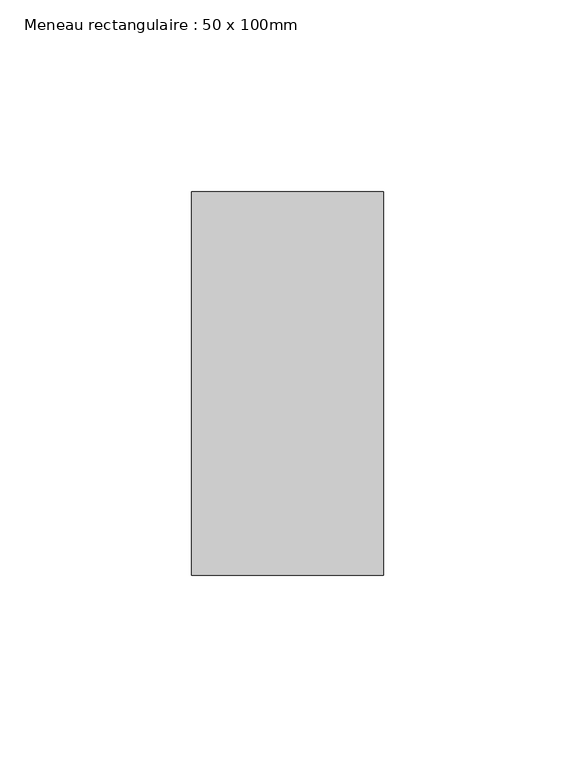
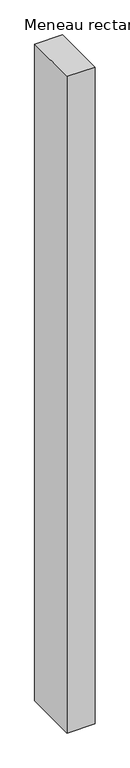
"""IFC4 building model written with IfcOpenShell, lengths in millimetres: member geometry, Meneau rectangulaire : 50 x 100mm."""

import ifcopenshell
import ifcopenshell.guid

model = None  # the IFC model being written
_history = None  # IfcOwnerHistory: only IFC2X3 demands one
_inside = {}  # id of a spatial element -> (the spatial element, [elements in it])
_under = {}  # id of a project, library or spatial element -> (it, [spatial elements below it])
_declared = {}  # id of a project -> (the project, [libraries it declares])
_typed = {}  # id of a type object -> (the type object, [elements of that type])
_made_of = {}  # id of a material, layer set ... -> (it, [elements and type objects made of it])


def new_model(schema):
    """Start an empty IFC model of exactly this schema.

    Asked for "IFC4X3", IfcOpenShell would pick the latest addendum, in which some entities
    have other attributes; the version numbers below select the first issue.
    IFC2X3 requires an IfcOwnerHistory on every rooted entity: one is made here for all.
    """
    global model, _history
    if schema == "IFC4X3":
        model = ifcopenshell.file(schema_version=(4, 3, 0, 0))
    else:
        model = ifcopenshell.file(schema=schema)
    _inside.clear()
    _under.clear()
    _declared.clear()
    _typed.clear()
    _made_of.clear()
    _history = None
    if model.schema == "IFC2X3":
        org = make("IfcOrganization", Name="unknown")
        user = make(
            "IfcPersonAndOrganization",
            ThePerson=make("IfcPerson", FamilyName="unknown"),
            TheOrganization=org,
        )
        app = make(
            "IfcApplication",
            ApplicationDeveloper=org,
            Version="unknown",
            ApplicationFullName="unknown",
            ApplicationIdentifier="unknown",
        )
        _history = make(
            "IfcOwnerHistory",
            OwningUser=user,
            OwningApplication=app,
            ChangeAction="ADDED",
            CreationDate=0,
        )
    return model


def make(cls, **values):
    """One entity of the class cls with the attributes given. An attribute that is None is left unset."""
    return model.create_entity(
        cls, **{name: value for name, value in values.items() if value is not None}
    )


def rooted(cls, **values):
    """An entity with a GlobalId (a new one), such as an element, a storey or a relation."""
    return make(cls, GlobalId=ifcopenshell.guid.new(), OwnerHistory=_history, **values)


def si_unit(unit_type, name, prefix=None):
    """IfcSIUnit, for example si_unit("LENGTHUNIT", "METRE", prefix="MILLI")."""
    return make("IfcSIUnit", UnitType=unit_type, Prefix=prefix, Name=name)


def assignment(units):
    """IfcUnitAssignment: the units of a project."""
    return None if units is None else make("IfcUnitAssignment", Units=units)


def point(xyz):
    """IfcCartesianPoint."""
    return None if xyz is None else make("IfcCartesianPoint", Coordinates=xyz)


def direction(xyz):
    """IfcDirection."""
    return None if xyz is None else make("IfcDirection", DirectionRatios=xyz)


def frame(location, z_axis=None, x_axis=None):
    """IfcAxis2Placement3D, a coordinate frame: its origin and axes. An axis left out is left unset."""
    return make(
        "IfcAxis2Placement3D",
        Location=point(location),
        Axis=direction(z_axis),
        RefDirection=direction(x_axis),
    )


def origin():
    """The frame at (0, 0, 0) with its axes left unset."""
    return frame((0.0, 0.0, 0.0))


def place(relative_to, where):
    """IfcLocalPlacement: puts the frame where relative to a parent placement (None: the world)."""
    return make(
        "IfcLocalPlacement", PlacementRelTo=relative_to, RelativePlacement=where
    )


def context(
    kind, dimensions, precision=None, world=None, true_north=None, identifier=None
):
    """IfcGeometricRepresentationContext, for example the 3D "Model" context."""
    return make(
        "IfcGeometricRepresentationContext",
        ContextIdentifier=identifier,
        ContextType=kind,
        CoordinateSpaceDimension=dimensions,
        Precision=precision,
        WorldCoordinateSystem=world,
        TrueNorth=true_north,
    )


def project(units=None, contexts=None):
    """IfcProject with its units and contexts."""
    return rooted(
        "IfcProject",
        Name="project",
        RepresentationContexts=contexts,
        UnitsInContext=assignment(units),
    )


def spatial(cls, under=None, at=None, **own):
    """A site, building, storey or space (cls), placed at a placement, below another one or the project."""
    s = rooted(cls, ObjectPlacement=at, **own)
    if under is not None:
        _under.setdefault(under.id(), (under, []))[1].append(s)
    return s


def polyline(points):
    """IfcPolyline through the points."""
    return make("IfcPolyline", Points=[point(p) for p in points])


def outline(outer, holes=None, kind="AREA"):
    """IfcArbitraryClosedProfileDef: a profile drawn as a closed curve; with holes, ...WithVoids."""
    if holes is None:
        return make("IfcArbitraryClosedProfileDef", ProfileType=kind, OuterCurve=outer)
    return make(
        "IfcArbitraryProfileDefWithVoids",
        ProfileType=kind,
        OuterCurve=outer,
        InnerCurves=holes,
    )


def extrude(swept, where, along, depth):
    """IfcExtrudedAreaSolid: the profile swept, set in the frame where, extruded along a direction by depth."""
    return make(
        "IfcExtrudedAreaSolid",
        SweptArea=swept,
        Position=where,
        ExtrudedDirection=direction(along),
        Depth=depth,
    )


def shape(context_of_items, identifier, shape_type, items):
    """IfcShapeRepresentation: the items that make up one representation, for example the "Body"."""
    return make(
        "IfcShapeRepresentation",
        ContextOfItems=context_of_items,
        RepresentationIdentifier=identifier,
        RepresentationType=shape_type,
        Items=items,
    )


def source(mapping_origin, context_of_items, identifier, shape_type, items):
    """IfcRepresentationMap: a shape defined once, which mapped items show again and again."""
    return make(
        "IfcRepresentationMap",
        MappingOrigin=mapping_origin,
        MappedRepresentation=shape(context_of_items, identifier, shape_type, items),
    )


def transform(
    local_origin,
    x_axis=None,
    y_axis=None,
    z_axis=None,
    scale=None,
    scale2=None,
    scale3=None,
    uniform=True,
):
    """IfcCartesianTransformationOperator3D, or its non-uniform kind. x_axis, y_axis, z_axis: its Axis1, 2, 3."""
    if uniform:
        return make(
            "IfcCartesianTransformationOperator3D",
            Axis1=direction(x_axis),
            Axis2=direction(y_axis),
            LocalOrigin=point(local_origin),
            Scale=scale,
            Axis3=direction(z_axis),
        )
    return make(
        "IfcCartesianTransformationOperator3DnonUniform",
        Axis1=direction(x_axis),
        Axis2=direction(y_axis),
        LocalOrigin=point(local_origin),
        Scale=scale,
        Axis3=direction(z_axis),
        Scale2=scale2,
        Scale3=scale3,
    )


def mapped(mapping_source, mapping_target):
    """IfcMappedItem: shows the shape of a source again, moved by a transform."""
    return make(
        "IfcMappedItem", MappingSource=mapping_source, MappingTarget=mapping_target
    )


def made_of(thing, what):
    """Note that an element or type object is made of a material, layer set ...; save() writes the relation."""
    if what is not None:
        _made_of.setdefault(what.id(), (what, []))[1].append(thing)
    return thing


def element(
    cls,
    number,
    at=None,
    inside=None,
    cuts=None,
    type_object=None,
    material=None,
    context=None,
    identifier="Body",
    shape_type=None,
    held_by="IfcProductDefinitionShape",
    body=None,
    shapes=None,
    **own,
):
    """One element of the class cls, such as IfcWall. Its Tag is "e" and its number.

    at: its placement. inside: the storey or other place that contains it. cuts: it is an
    opening in that element (IfcRelVoidsElement). A single representation is given by context,
    identifier, shape_type and body (its items); several are given by shapes. held_by: the class
    of the entity that holds the representations. save() writes the other relations.
    """
    e = rooted(cls, Tag="e%d" % number, ObjectPlacement=at, **own)
    if body is not None:
        shapes = [shape(context, identifier, shape_type, body)]
    if shapes is not None:
        e.Representation = make(held_by, Representations=shapes)
    if inside is not None:
        _inside.setdefault(inside.id(), (inside, []))[1].append(e)
    if cuts is not None:
        rooted(
            "IfcRelVoidsElement", RelatingBuildingElement=cuts, RelatedOpeningElement=e
        )
    if type_object is not None:
        _typed.setdefault(type_object.id(), (type_object, []))[1].append(e)
    return made_of(e, material)


def aggregate(whole, parts):
    """IfcRelAggregates: a whole, such as a stair, and the parts it consists of."""
    return rooted("IfcRelAggregates", RelatingObject=whole, RelatedObjects=parts)


def save(model, path):
    """Write the relations noted so far, then the file.

    IfcRelAggregates (storeys below a building ...), IfcRelContainedInSpatialStructure (elements
    in a storey), IfcRelDefinesByType, IfcRelAssociatesMaterial and IfcRelDeclares: one each for
    every whole, place, type object, material and project.
    """
    for whole, parts in _under.values():
        aggregate(whole, parts)
    for where, things in _inside.values():
        rooted(
            "IfcRelContainedInSpatialStructure",
            RelatedElements=things,
            RelatingStructure=where,
        )
    for kind, things in _typed.values():
        rooted("IfcRelDefinesByType", RelatedObjects=things, RelatingType=kind)
    for what, things in _made_of.values():
        rooted("IfcRelAssociatesMaterial", RelatedObjects=things, RelatingMaterial=what)
    for by, libraries in _declared.values():
        rooted("IfcRelDeclares", RelatingContext=by, RelatedDefinitions=libraries)
    model.write(path)


def meneau_rectangulaire_50_x_100mm_9fbe2ceb(model_context):
    return source(origin(), model_context, "Body", "SweptSolid", [
        extrude(outline(polyline([(0.0, 50.0), (0.0, -50.0), (-50.0, -50.0), (-50.0, 50.0), (0.0, 50.0)])), frame((0.0, 0.0, -1240.0), z_axis=(0.0, 0.0, 1.0), x_axis=(1.0, 0.0, 0.0)), (0.0, 0.0, 1.0), 1240.0),
    ])


if __name__ == "__main__":
    model = new_model("IFC4")
    model_context = context("Model", 3, world=origin())
    ifc_project = project(units=[si_unit("LENGTHUNIT", "METRE", prefix="MILLI")], contexts=[model_context])
    site = spatial("IfcSite", under=ifc_project)
    building = spatial("IfcBuilding", under=site)
    placement = place(None, origin())
    meneau_rectangulaire_50_x_100mm_shape = meneau_rectangulaire_50_x_100mm_9fbe2ceb(model_context)
    element("IfcMember", 1, ObjectType="Meneau rectangulaire : 50 x 100mm", at=placement, inside=building, context=model_context, shape_type="MappedRepresentation", body=[
        mapped(meneau_rectangulaire_50_x_100mm_shape, transform((0.0, 0.0, 0.0), x_axis=(1.0, 0.0, 0.0), y_axis=(0.0, 1.0, 0.0), z_axis=(0.0, 0.0, 1.0))),
    ])
    save(model, "model.ifc")
